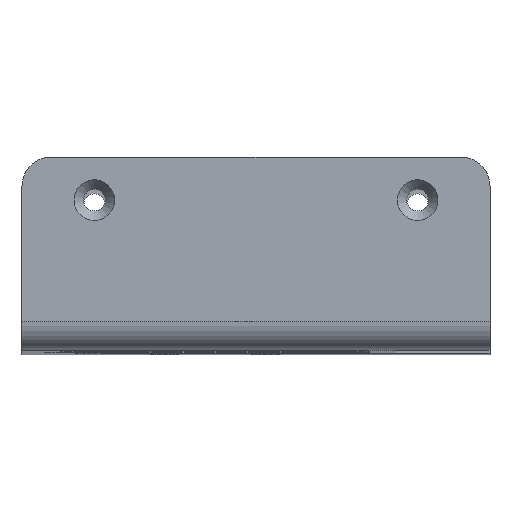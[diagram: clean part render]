
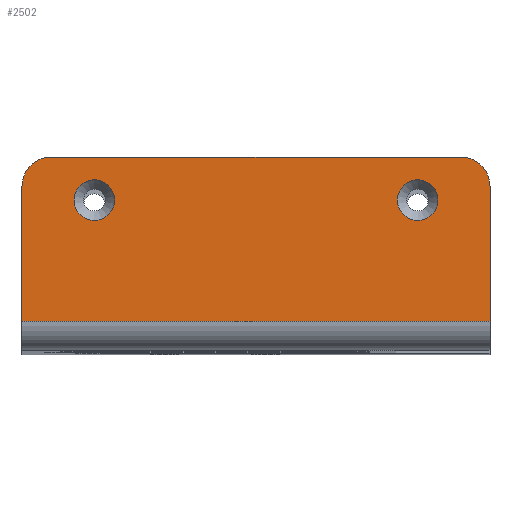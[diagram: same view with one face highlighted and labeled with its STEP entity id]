
A CAD part, top view. The second image highlights one B-rep face of the part: STEP entity #2502.
In plain terms, the highlighted planar face has unit normal (0, 0, 1).
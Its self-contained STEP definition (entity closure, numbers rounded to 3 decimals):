
#76=FACE_BOUND('',#479,.T.);
#77=FACE_BOUND('',#480,.T.);
#147=PLANE('',#2756);
#307=FACE_OUTER_BOUND('',#478,.T.);
#478=EDGE_LOOP('',(#2045,#2046,#2047,#2048,#2049,#2050));
#479=EDGE_LOOP('',(#2051));
#480=EDGE_LOOP('',(#2052));
#679=LINE('',#3987,#862);
#685=LINE('',#4004,#868);
#693=LINE('',#4026,#876);
#696=LINE('',#4038,#879);
#862=VECTOR('',#3272,10.);
#868=VECTOR('',#3288,4.32);
#876=VECTOR('',#3318,10.);
#879=VECTOR('',#3335,10.);
#944=CIRCLE('',#2572,4.217);
#953=CIRCLE('',#2587,4.217);
#1040=CIRCLE('',#2729,6.);
#1043=CIRCLE('',#2735,6.);
#1096=VERTEX_POINT('',#3586);
#1105=VERTEX_POINT('',#3616);
#1230=VERTEX_POINT('',#3974);
#1231=VERTEX_POINT('',#3975);
#1235=VERTEX_POINT('',#3985);
#1239=VERTEX_POINT('',#3997);
#1240=VERTEX_POINT('',#3998);
#1241=VERTEX_POINT('',#4003);
#1318=EDGE_CURVE('',#1096,#1096,#944,.T.);
#1333=EDGE_CURVE('',#1105,#1105,#953,.T.);
#1511=EDGE_CURVE('',#1230,#1231,#1040,.T.);
#1517=EDGE_CURVE('',#1230,#1235,#679,.T.);
#1522=EDGE_CURVE('',#1239,#1240,#1043,.T.);
#1525=EDGE_CURVE('',#1241,#1240,#685,.T.);
#1537=EDGE_CURVE('',#1235,#1241,#693,.T.);
#1544=EDGE_CURVE('',#1239,#1231,#696,.T.);
#2045=ORIENTED_EDGE('',*,*,#1511,.F.);
#2046=ORIENTED_EDGE('',*,*,#1517,.T.);
#2047=ORIENTED_EDGE('',*,*,#1537,.T.);
#2048=ORIENTED_EDGE('',*,*,#1525,.T.);
#2049=ORIENTED_EDGE('',*,*,#1522,.F.);
#2050=ORIENTED_EDGE('',*,*,#1544,.T.);
#2051=ORIENTED_EDGE('',*,*,#1318,.T.);
#2052=ORIENTED_EDGE('',*,*,#1333,.T.);
#2502=ADVANCED_FACE('',(#307,#76,#77),#147,.F.);
#2572=AXIS2_PLACEMENT_3D('',#3587,#2851,#2852);
#2587=AXIS2_PLACEMENT_3D('',#3617,#2887,#2888);
#2729=AXIS2_PLACEMENT_3D('',#3976,#3262,#3263);
#2735=AXIS2_PLACEMENT_3D('',#3999,#3282,#3283);
#2756=AXIS2_PLACEMENT_3D('',#4041,#3339,#3340);
#2851=DIRECTION('center_axis',(0.,0.,-1.));
#2852=DIRECTION('ref_axis',(0.,-1.,0.));
#2887=DIRECTION('center_axis',(0.,0.,-1.));
#2888=DIRECTION('ref_axis',(0.,-1.,0.));
#3262=DIRECTION('center_axis',(0.,0.,-1.));
#3263=DIRECTION('ref_axis',(-0.707,0.707,0.));
#3272=DIRECTION('',(0.,-1.,0.));
#3282=DIRECTION('center_axis',(0.,0.,-1.));
#3283=DIRECTION('ref_axis',(0.707,0.707,0.));
#3288=DIRECTION('',(0.,1.,0.));
#3318=DIRECTION('',(1.,0.,0.));
#3335=DIRECTION('',(-1.,0.,0.));
#3339=DIRECTION('center_axis',(0.,0.,-1.));
#3340=DIRECTION('ref_axis',(1.,0.,0.));
#3586=CARTESIAN_POINT('',(-25.,35.317,46.));
#3587=CARTESIAN_POINT('Origin',(-25.,31.1,46.));
#3616=CARTESIAN_POINT('',(42.,35.317,46.));
#3617=CARTESIAN_POINT('Origin',(42.,31.1,46.));
#3974=CARTESIAN_POINT('',(-40.,34.,46.));
#3975=CARTESIAN_POINT('',(-34.,40.,46.));
#3976=CARTESIAN_POINT('Origin',(-34.,34.,46.));
#3985=CARTESIAN_POINT('',(-40.,6.,46.));
#3987=CARTESIAN_POINT('',(-40.,6.,46.));
#3997=CARTESIAN_POINT('',(51.,40.,46.));
#3998=CARTESIAN_POINT('',(57.,34.,46.));
#3999=CARTESIAN_POINT('Origin',(51.,34.,46.));
#4003=CARTESIAN_POINT('',(57.,6.,46.));
#4004=CARTESIAN_POINT('',(57.,-7.572,46.));
#4026=CARTESIAN_POINT('',(8.5,6.,46.));
#4038=CARTESIAN_POINT('',(-40.,40.,46.));
#4041=CARTESIAN_POINT('Origin',(8.5,-273.286,46.));
